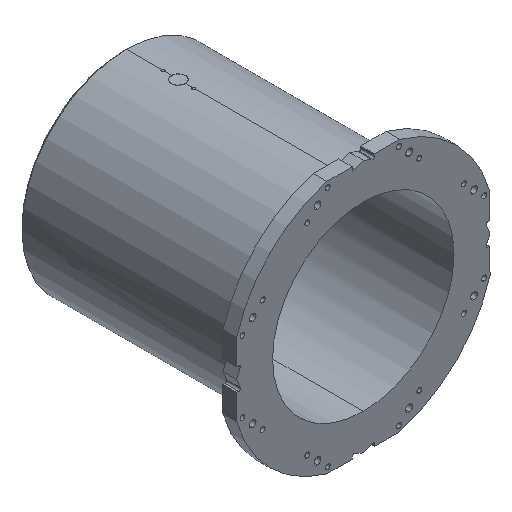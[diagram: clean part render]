
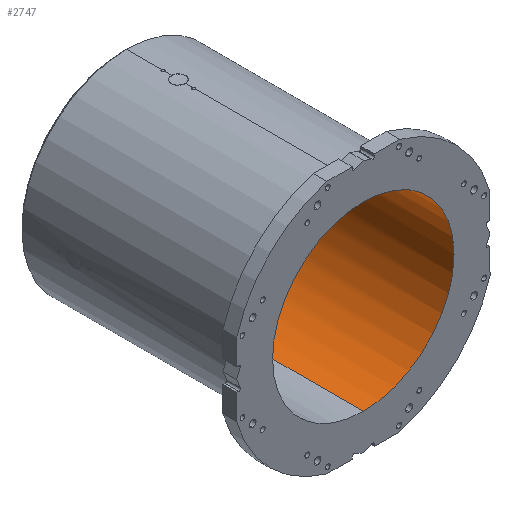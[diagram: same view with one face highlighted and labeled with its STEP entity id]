
A CAD part, isometric view. The second image highlights one B-rep face of the part: STEP entity #2747.
In plain terms, the highlighted cylindrical face has radius 265 mm (diameter 530 mm), a partial arc.
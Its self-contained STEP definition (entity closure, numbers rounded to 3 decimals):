
#165 = DIRECTION ( 'NONE',  ( 0., 0., -1. ) ) ;
#788 = CARTESIAN_POINT ( 'NONE',  ( 0., 663., 265. ) ) ;
#1769 = VECTOR ( 'NONE', #11225, 1000. ) ;
#2115 = CARTESIAN_POINT ( 'NONE',  ( 0., 0., 0. ) ) ;
#2507 = DIRECTION ( 'NONE',  ( 0., 1., 0. ) ) ;
#2714 = EDGE_CURVE ( 'NONE', #7461, #8016, #8474, .T. ) ;
#2747 = ADVANCED_FACE ( 'NONE', ( #4265 ), #8408, .F. ) ;
#3164 = ORIENTED_EDGE ( 'NONE', *, *, #6409, .F. ) ;
#3334 = DIRECTION ( 'NONE',  ( 0., -1., 0. ) ) ;
#3391 = DIRECTION ( 'NONE',  ( 0., 0., -1. ) ) ;
#4093 = CIRCLE ( 'NONE', #8800, 265. ) ;
#4265 = FACE_OUTER_BOUND ( 'NONE', #9464, .T. ) ;
#4856 = CARTESIAN_POINT ( 'NONE',  ( 0., 663., -265. ) ) ;
#5355 = EDGE_CURVE ( 'NONE', #6206, #7461, #4093, .T. ) ;
#5408 = DIRECTION ( 'NONE',  ( 0., -1., 0. ) ) ;
#5411 = AXIS2_PLACEMENT_3D ( 'NONE', #2115, #9116, #13237 ) ;
#6206 = VERTEX_POINT ( 'NONE', #788 ) ;
#6249 = EDGE_CURVE ( 'NONE', #8016, #9223, #11845, .T. ) ;
#6409 = EDGE_CURVE ( 'NONE', #6206, #9223, #12119, .T. ) ;
#6883 = ORIENTED_EDGE ( 'NONE', *, *, #2714, .T. ) ;
#7378 = ORIENTED_EDGE ( 'NONE', *, *, #5355, .T. ) ;
#7461 = VERTEX_POINT ( 'NONE', #4856 ) ;
#8016 = VERTEX_POINT ( 'NONE', #12017 ) ;
#8279 = CARTESIAN_POINT ( 'NONE',  ( 0., 0., -265. ) ) ;
#8336 = VECTOR ( 'NONE', #5408, 1000. ) ;
#8408 = CYLINDRICAL_SURFACE ( 'NONE', #10299, 265. ) ;
#8474 = LINE ( 'NONE', #8279, #8336 ) ;
#8800 = AXIS2_PLACEMENT_3D ( 'NONE', #11588, #2507, #165 ) ;
#9116 = DIRECTION ( 'NONE',  ( 0., -1., 0. ) ) ;
#9223 = VERTEX_POINT ( 'NONE', #12753 ) ;
#9464 = EDGE_LOOP ( 'NONE', ( #3164, #7378, #6883, #12992 ) ) ;
#10299 = AXIS2_PLACEMENT_3D ( 'NONE', #12473, #3334, #3391 ) ;
#11225 = DIRECTION ( 'NONE',  ( 0., -1., 0. ) ) ;
#11588 = CARTESIAN_POINT ( 'NONE',  ( 0., 663., 0. ) ) ;
#11845 = CIRCLE ( 'NONE', #5411, 265. ) ;
#12017 = CARTESIAN_POINT ( 'NONE',  ( 0., 0., -265. ) ) ;
#12119 = LINE ( 'NONE', #12990, #1769 ) ;
#12473 = CARTESIAN_POINT ( 'NONE',  ( 0., 0., 0. ) ) ;
#12753 = CARTESIAN_POINT ( 'NONE',  ( 0., 0., 265. ) ) ;
#12990 = CARTESIAN_POINT ( 'NONE',  ( 0., 0., 265. ) ) ;
#12992 = ORIENTED_EDGE ( 'NONE', *, *, #6249, .T. ) ;
#13237 = DIRECTION ( 'NONE',  ( 0., 0., -1. ) ) ;
